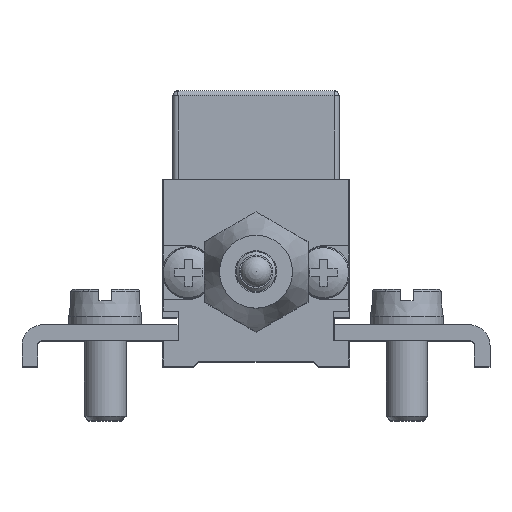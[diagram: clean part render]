
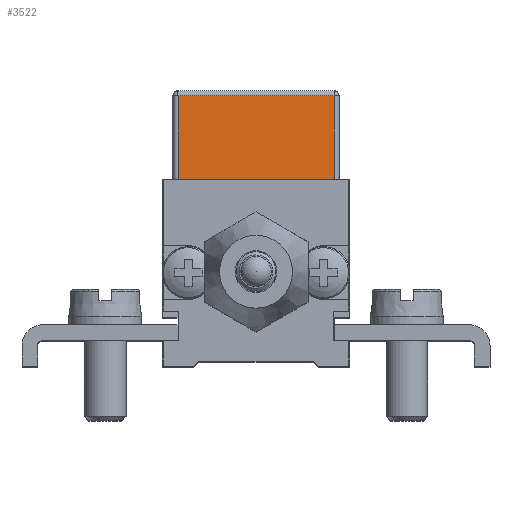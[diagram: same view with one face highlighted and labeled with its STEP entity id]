
A CAD part, top view. The second image highlights one B-rep face of the part: STEP entity #3522.
In plain terms, the highlighted planar face has unit normal (0, 0, 1) as drawn and (-1, 0, 0) by its records, which use the part's own axes.
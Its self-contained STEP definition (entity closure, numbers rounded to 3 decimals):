
#997=ORIENTED_EDGE('',*,*,#1577,.F.);
#998=ORIENTED_EDGE('',*,*,#1578,.T.);
#999=ORIENTED_EDGE('',*,*,#1573,.T.);
#1000=ORIENTED_EDGE('',*,*,#1579,.T.);
#1573=EDGE_CURVE('',#1937,#1938,#2210,.T.);
#1577=EDGE_CURVE('',#1941,#1942,#2212,.T.);
#1578=EDGE_CURVE('',#1941,#1937,#2213,.F.);
#1579=EDGE_CURVE('',#1938,#1942,#2214,.T.);
#1937=VERTEX_POINT('',#6765);
#1938=VERTEX_POINT('',#6766);
#1941=VERTEX_POINT('',#6774);
#1942=VERTEX_POINT('',#6775);
#2210=LINE('',#6764,#2476);
#2212=LINE('',#6773,#2478);
#2213=LINE('',#6776,#2479);
#2214=LINE('',#6777,#2480);
#2476=VECTOR('',#5552,1000.);
#2478=VECTOR('',#5560,1000.);
#2479=VECTOR('',#5561,1000.);
#2480=VECTOR('',#5562,1000.);
#2802=EDGE_LOOP('',(#997,#998,#999,#1000));
#3127=FACE_BOUND('',#2802,.T.);
#3317=PLANE('',#4686);
#3522=ADVANCED_FACE('',(#3127),#3317,.F.);
#4686=AXIS2_PLACEMENT_3D('',#6772,#5558,#5559);
#5552=DIRECTION('',(0.,-1.,0.));
#5558=DIRECTION('',(1.,0.,0.));
#5559=DIRECTION('',(0.,0.,-1.));
#5560=DIRECTION('',(0.,-1.,0.));
#5561=DIRECTION('',(0.,0.,1.));
#5562=DIRECTION('',(0.,0.,1.));
#6764=CARTESIAN_POINT('',(-25.,8.5,-7.5));
#6765=CARTESIAN_POINT('',(-25.,8.,-7.5));
#6766=CARTESIAN_POINT('',(-25.,0.,-7.5));
#6772=CARTESIAN_POINT('',(-25.,8.5,-7.5));
#6773=CARTESIAN_POINT('',(-25.,8.5,7.5));
#6774=CARTESIAN_POINT('',(-25.,8.,7.5));
#6775=CARTESIAN_POINT('',(-25.,0.,7.5));
#6776=CARTESIAN_POINT('',(-25.,8.,-7.5));
#6777=CARTESIAN_POINT('',(-25.,0.,-7.5));
